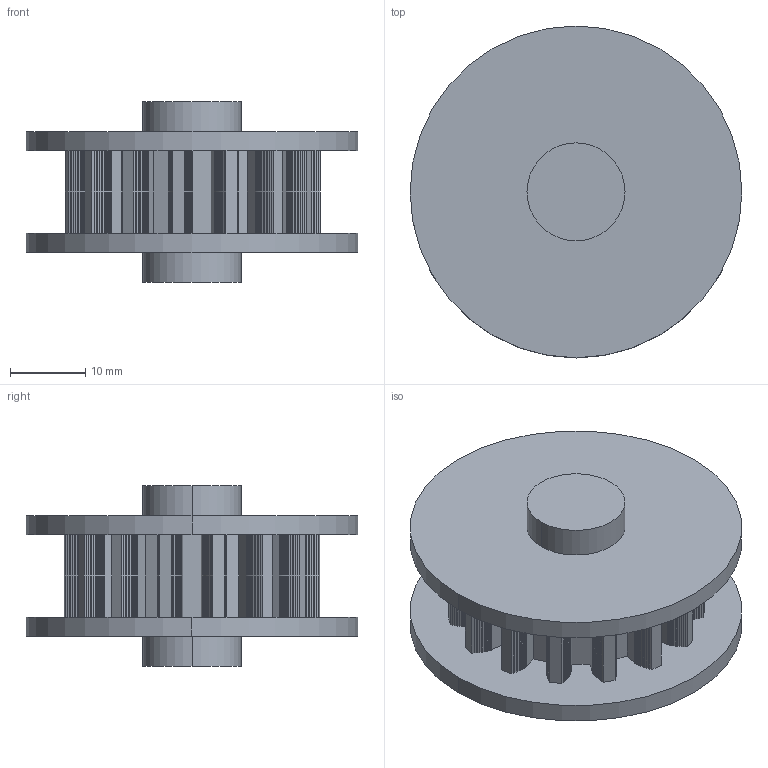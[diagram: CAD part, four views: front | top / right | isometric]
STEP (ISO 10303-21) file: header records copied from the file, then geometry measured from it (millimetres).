
FILE_DESCRIPTION (( 'STEP AP203' ), '1' );
FILE_NAME ('support_gear.STEP', '2019-07-18T16:17:49', ( '' ), ( '' ), 'SwSTEP 2.0', 'SolidWorks 2017', '' );
FILE_SCHEMA (( 'CONFIG_CONTROL_DESIGN' ));
Length unit declared in the file: millimetre
Products named in the file (1): support_gear
Bounding box: 44 x 44 x 24 mm (x, y, z)
Volume: 16164.6 mm3; surface area: 7936.2 mm2
Topology: 1 solids, 1 shells, 644 faces, 1914 edges, 1276 vertices
Faces by surface type: plane 636, cylinder 8
Entity records: 21211 total; most frequent: CARTESIAN_POINT 3835, ORIENTED_EDGE 3828, DIRECTION 3220, EDGE_CURVE 1914, LINE 1898, VECTOR 1898, VERTEX_POINT 1276, AXIS2_PLACEMENT_3D 661
